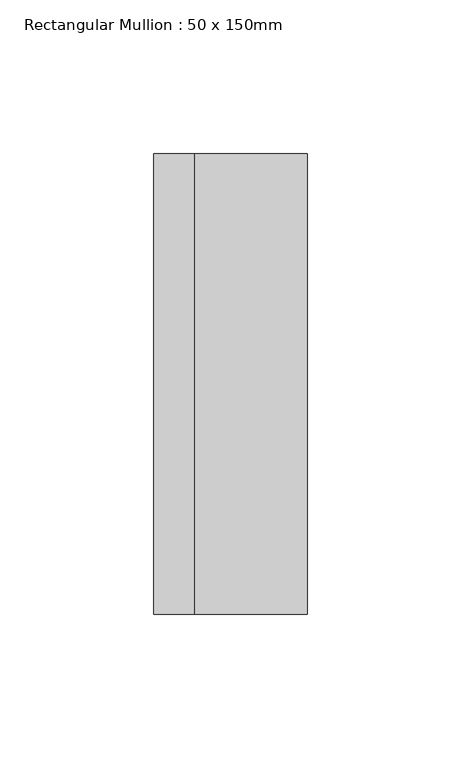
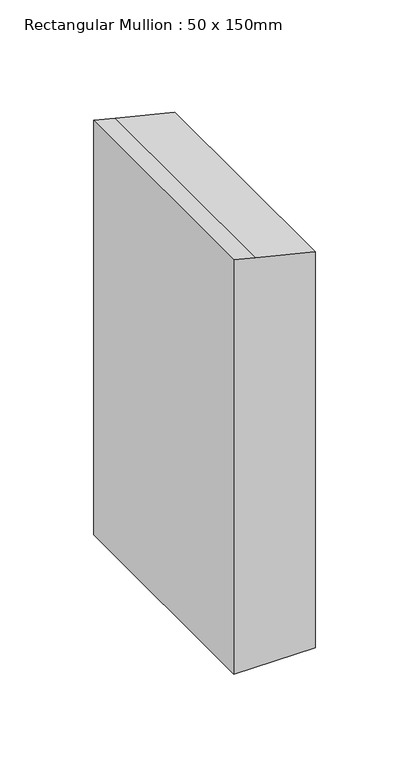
"""IFC4 building model written with IfcOpenShell, lengths in millimetres: member geometry, Rectangular Mullion : 50 x 150mm."""

from ifc_helpers import new_model, si_unit, origin, place, context, project, spatial, faceted_brep, source, transform, mapped, element, save


def rectangular_mullion_50_x_150mm_2eb6d158(model_context):
    return source(origin(), model_context, "Body", "Brep", [
        faceted_brep([(25.0, 75.0, -315.7783378), (25.0, -75.0, -315.7783378), (-25.0, -75.0, -315.7783378), (-25.0, 75.0, -315.7783378), (-25.0, 75.0, -45.4430677), (-11.588744, 75.0, -48.6384726), (25.0, 75.0, -57.4780613), (-25.0, -75.0, -45.4430677), (25.0, -75.0, -57.4780613), (-11.5888012, -75.0, -48.6387127)], [[[0, 1, 2, 3]], [[4, 5, 6, 0, 3]], [[7, 4, 3, 2]], [[8, 9, 7, 2, 1]], [[6, 8, 1, 0]], [[6, 5, 9, 8]], [[5, 4, 7, 9]]]),
    ])


if __name__ == "__main__":
    model = new_model("IFC4")
    model_context = context("Model", 3, world=origin())
    ifc_project = project(units=[si_unit("LENGTHUNIT", "METRE", prefix="MILLI")], contexts=[model_context])
    site = spatial("IfcSite", under=ifc_project)
    building = spatial("IfcBuilding", under=site)
    placement = place(None, origin())
    rectangular_mullion_50_x_150mm_shape = rectangular_mullion_50_x_150mm_2eb6d158(model_context)
    element("IfcMember", 1, ObjectType="Rectangular Mullion : 50 x 150mm", at=placement, inside=building, context=model_context, shape_type="MappedRepresentation", body=[
        mapped(rectangular_mullion_50_x_150mm_shape, transform((0.0, 0.0, 0.0), x_axis=(1.0, 0.0, 0.0), y_axis=(0.0, 1.0, 0.0), z_axis=(0.0, 0.0, 1.0))),
    ])
    save(model, "model.ifc")
